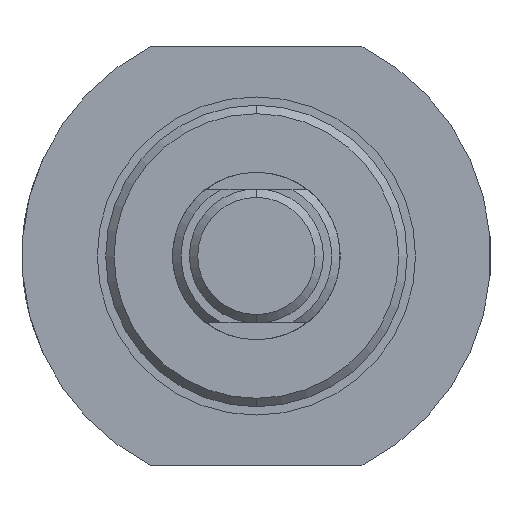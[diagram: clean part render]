
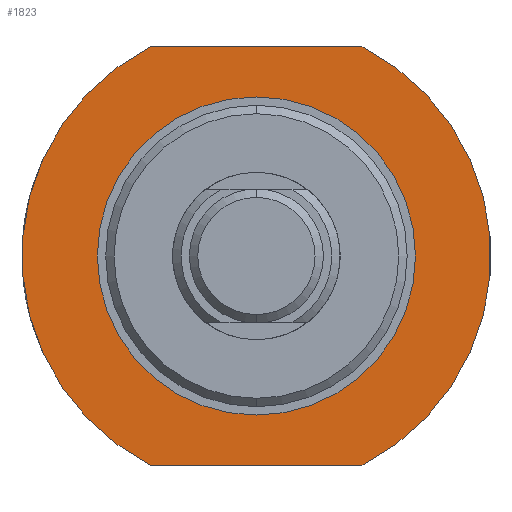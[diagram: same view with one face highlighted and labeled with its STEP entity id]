
A CAD part, left-side view. The second image highlights one B-rep face of the part: STEP entity #1823.
In plain terms, the highlighted planar face has unit normal (-1, 0, 0).
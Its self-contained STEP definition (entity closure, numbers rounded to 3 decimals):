
#37 = EDGE_CURVE ( 'NONE', #1032, #1542, #1022, .T. ) ;
#51 = VERTEX_POINT ( 'NONE', #630 ) ;
#79 = ORIENTED_EDGE ( 'NONE', *, *, #612, .F. ) ;
#138 = ORIENTED_EDGE ( 'NONE', *, *, #684, .T. ) ;
#147 = DIRECTION ( 'NONE',  ( 0., 0., 1. ) ) ;
#223 = VECTOR ( 'NONE', #1621, 1000. ) ;
#329 = EDGE_CURVE ( 'NONE', #960, #695, #764, .T. ) ;
#361 = DIRECTION ( 'NONE',  ( -1., 0., 0. ) ) ;
#369 = ORIENTED_EDGE ( 'NONE', *, *, #1168, .F. ) ;
#387 = CARTESIAN_POINT ( 'NONE',  ( 34., 11.874, -12.5 ) ) ;
#436 = CARTESIAN_POINT ( 'NONE',  ( 34., 0., 0. ) ) ;
#454 = CARTESIAN_POINT ( 'NONE',  ( 34., 0., 0. ) ) ;
#462 = EDGE_LOOP ( 'NONE', ( #79, #1524 ) ) ;
#477 = LINE ( 'NONE', #387, #223 ) ;
#538 = DIRECTION ( 'NONE',  ( -1., 0., 0. ) ) ;
#548 = ORIENTED_EDGE ( 'NONE', *, *, #1315, .T. ) ;
#612 = EDGE_CURVE ( 'NONE', #1542, #1032, #1324, .T. ) ;
#615 = FACE_BOUND ( 'NONE', #462, .T. ) ;
#630 = CARTESIAN_POINT ( 'NONE',  ( 34., -6.305, -12.5 ) ) ;
#668 = AXIS2_PLACEMENT_3D ( 'NONE', #1132, #798, #879 ) ;
#684 = EDGE_CURVE ( 'NONE', #960, #1290, #991, .T. ) ;
#695 = VERTEX_POINT ( 'NONE', #1520 ) ;
#709 = CARTESIAN_POINT ( 'NONE',  ( 34., 0., -14. ) ) ;
#764 = LINE ( 'NONE', #1234, #1149 ) ;
#796 = DIRECTION ( 'NONE',  ( 0., -1., 0. ) ) ;
#798 = DIRECTION ( 'NONE',  ( -1., 0., 0. ) ) ;
#800 = PLANE ( 'NONE',  #1208 ) ;
#809 = DIRECTION ( 'NONE',  ( 0., 0., 1. ) ) ;
#879 = DIRECTION ( 'NONE',  ( 0., 0., 1. ) ) ;
#896 = AXIS2_PLACEMENT_3D ( 'NONE', #436, #1500, #147 ) ;
#960 = VERTEX_POINT ( 'NONE', #1298 ) ;
#991 = CIRCLE ( 'NONE', #1400, 14. ) ;
#993 = EDGE_LOOP ( 'NONE', ( #138, #369, #548, #1897 ) ) ;
#1009 = DIRECTION ( 'NONE',  ( 0., 0., -1. ) ) ;
#1022 = CIRCLE ( 'NONE', #896, 9.5 ) ;
#1032 = VERTEX_POINT ( 'NONE', #1248 ) ;
#1132 = CARTESIAN_POINT ( 'NONE',  ( 34., 0., 0. ) ) ;
#1135 = CARTESIAN_POINT ( 'NONE',  ( 34., 0., 0. ) ) ;
#1149 = VECTOR ( 'NONE', #796, 1000. ) ;
#1168 = EDGE_CURVE ( 'NONE', #51, #1290, #477, .T. ) ;
#1188 = DIRECTION ( 'NONE',  ( 0., 0., 1. ) ) ;
#1208 = AXIS2_PLACEMENT_3D ( 'NONE', #709, #1836, #1009 ) ;
#1234 = CARTESIAN_POINT ( 'NONE',  ( 34., 11.874, 12.5 ) ) ;
#1248 = CARTESIAN_POINT ( 'NONE',  ( 34., 0., -9.5 ) ) ;
#1290 = VERTEX_POINT ( 'NONE', #1330 ) ;
#1292 = CIRCLE ( 'NONE', #668, 14. ) ;
#1298 = CARTESIAN_POINT ( 'NONE',  ( 34., 6.305, 12.5 ) ) ;
#1315 = EDGE_CURVE ( 'NONE', #51, #695, #1292, .T. ) ;
#1324 = CIRCLE ( 'NONE', #1927, 9.5 ) ;
#1330 = CARTESIAN_POINT ( 'NONE',  ( 34., 6.305, -12.5 ) ) ;
#1400 = AXIS2_PLACEMENT_3D ( 'NONE', #1135, #538, #1188 ) ;
#1465 = CARTESIAN_POINT ( 'NONE',  ( 34., 0., 9.5 ) ) ;
#1500 = DIRECTION ( 'NONE',  ( -1., 0., 0. ) ) ;
#1520 = CARTESIAN_POINT ( 'NONE',  ( 34., -6.305, 12.5 ) ) ;
#1524 = ORIENTED_EDGE ( 'NONE', *, *, #37, .F. ) ;
#1542 = VERTEX_POINT ( 'NONE', #1465 ) ;
#1621 = DIRECTION ( 'NONE',  ( 0., 1., 0. ) ) ;
#1646 = FACE_OUTER_BOUND ( 'NONE', #993, .T. ) ;
#1823 = ADVANCED_FACE ( 'NONE', ( #615, #1646 ), #800, .F. ) ;
#1836 = DIRECTION ( 'NONE',  ( 1., 0., 0. ) ) ;
#1897 = ORIENTED_EDGE ( 'NONE', *, *, #329, .F. ) ;
#1927 = AXIS2_PLACEMENT_3D ( 'NONE', #454, #361, #809 ) ;
